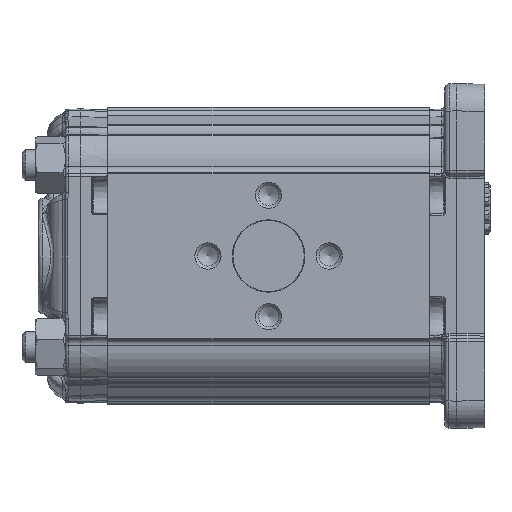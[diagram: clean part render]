
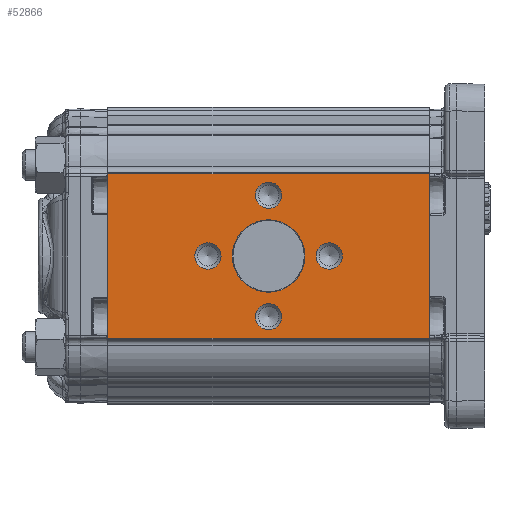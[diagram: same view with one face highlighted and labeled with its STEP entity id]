
A CAD part, left-side view. The second image highlights one B-rep face of the part: STEP entity #52866.
In plain terms, the highlighted planar face has unit normal (-1, 0, 0).
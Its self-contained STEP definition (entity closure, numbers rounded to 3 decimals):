
#3943=LINE('',#75974,#5759);
#3944=LINE('',#75977,#5760);
#3945=LINE('',#75979,#5761);
#3946=LINE('',#75981,#5762);
#5759=VECTOR('',#61672,1000.);
#5760=VECTOR('',#61673,1000.);
#5761=VECTOR('',#61674,1000.);
#5762=VECTOR('',#61675,1000.);
#11424=ORIENTED_EDGE('',*,*,#20646,.T.);
#11425=ORIENTED_EDGE('',*,*,#20647,.T.);
#11426=ORIENTED_EDGE('',*,*,#20648,.T.);
#11427=ORIENTED_EDGE('',*,*,#20649,.T.);
#11428=ORIENTED_EDGE('',*,*,#20650,.T.);
#11429=ORIENTED_EDGE('',*,*,#20651,.F.);
#11430=ORIENTED_EDGE('',*,*,#20652,.F.);
#11431=ORIENTED_EDGE('',*,*,#20653,.T.);
#11432=ORIENTED_EDGE('',*,*,#20654,.T.);
#20646=EDGE_CURVE('',#25535,#25535,#28604,.F.);
#20647=EDGE_CURVE('',#25536,#25536,#28605,.F.);
#20648=EDGE_CURVE('',#25537,#25537,#28606,.F.);
#20649=EDGE_CURVE('',#25538,#25538,#28607,.F.);
#20650=EDGE_CURVE('',#25539,#25539,#28608,.F.);
#20651=EDGE_CURVE('',#25540,#25541,#3943,.T.);
#20652=EDGE_CURVE('',#25542,#25540,#3944,.T.);
#20653=EDGE_CURVE('',#25542,#25543,#3945,.T.);
#20654=EDGE_CURVE('',#25543,#25541,#3946,.T.);
#25535=VERTEX_POINT('',#75965);
#25536=VERTEX_POINT('',#75967);
#25537=VERTEX_POINT('',#75969);
#25538=VERTEX_POINT('',#75971);
#25539=VERTEX_POINT('',#75973);
#25540=VERTEX_POINT('',#75975);
#25541=VERTEX_POINT('',#75976);
#25542=VERTEX_POINT('',#75978);
#25543=VERTEX_POINT('',#75980);
#28604=CIRCLE('',#55978,4.324);
#28605=CIRCLE('',#55979,4.324);
#28606=CIRCLE('',#55980,4.324);
#28607=CIRCLE('',#55981,4.324);
#28608=CIRCLE('',#55982,11.95);
#30504=EDGE_LOOP('',(#11424));
#30505=EDGE_LOOP('',(#11425));
#30506=EDGE_LOOP('',(#11426));
#30507=EDGE_LOOP('',(#11427));
#30508=EDGE_LOOP('',(#11428));
#30509=EDGE_LOOP('',(#11429,#11430,#11431,#11432));
#33265=FACE_BOUND('',#30504,.T.);
#33266=FACE_BOUND('',#30505,.T.);
#33267=FACE_BOUND('',#30506,.T.);
#33268=FACE_BOUND('',#30507,.T.);
#33269=FACE_BOUND('',#30508,.T.);
#33270=FACE_BOUND('',#30509,.T.);
#35179=PLANE('',#55977);
#52866=ADVANCED_FACE('',(#33265,#33266,#33267,#33268,#33269,#33270),#35179,
 .T.);
#55977=AXIS2_PLACEMENT_3D('',#75963,#61660,#61661);
#55978=AXIS2_PLACEMENT_3D('',#75964,#61662,#61663);
#55979=AXIS2_PLACEMENT_3D('',#75966,#61664,#61665);
#55980=AXIS2_PLACEMENT_3D('',#75968,#61666,#61667);
#55981=AXIS2_PLACEMENT_3D('',#75970,#61668,#61669);
#55982=AXIS2_PLACEMENT_3D('',#75972,#61670,#61671);
#61660=DIRECTION('',(-1.,0.,0.));
#61661=DIRECTION('',(0.,0.,1.));
#61662=DIRECTION('',(-1.,0.,0.));
#61663=DIRECTION('',(0.,0.,1.));
#61664=DIRECTION('',(-1.,0.,0.));
#61665=DIRECTION('',(0.,0.,1.));
#61666=DIRECTION('',(-1.,0.,0.));
#61667=DIRECTION('',(0.,0.,1.));
#61668=DIRECTION('',(-1.,0.,0.));
#61669=DIRECTION('',(0.,0.,1.));
#61670=DIRECTION('',(-1.,0.,0.));
#61671=DIRECTION('',(0.,0.,1.));
#61672=DIRECTION('',(0.,0.,-1.));
#61673=DIRECTION('',(0.,-1.,0.));
#61674=DIRECTION('',(0.,0.,-1.));
#61675=DIRECTION('',(0.,-1.,0.));
#75963=CARTESIAN_POINT('',(-43.,106.,27.048));
#75964=CARTESIAN_POINT('',(-43.,33.,0.));
#75965=CARTESIAN_POINT('',(-43.,33.,4.324));
#75966=CARTESIAN_POINT('',(-43.,73.,0.));
#75967=CARTESIAN_POINT('',(-43.,73.,4.324));
#75968=CARTESIAN_POINT('',(-43.,53.,-20.));
#75969=CARTESIAN_POINT('',(-43.,53.,-15.677));
#75970=CARTESIAN_POINT('',(-43.,53.,20.));
#75971=CARTESIAN_POINT('',(-43.,53.,24.324));
#75972=CARTESIAN_POINT('',(-43.,53.,0.));
#75973=CARTESIAN_POINT('',(-43.,53.,11.95));
#75974=CARTESIAN_POINT('',(-43.,0.,27.048));
#75975=CARTESIAN_POINT('',(-43.,0.,27.048));
#75976=CARTESIAN_POINT('',(-43.,0.,-27.048));
#75977=CARTESIAN_POINT('',(-43.,106.,27.048));
#75978=CARTESIAN_POINT('',(-43.,106.,27.048));
#75979=CARTESIAN_POINT('',(-43.,106.,27.048));
#75980=CARTESIAN_POINT('',(-43.,106.,-27.048));
#75981=CARTESIAN_POINT('',(-43.,106.,-27.048));
